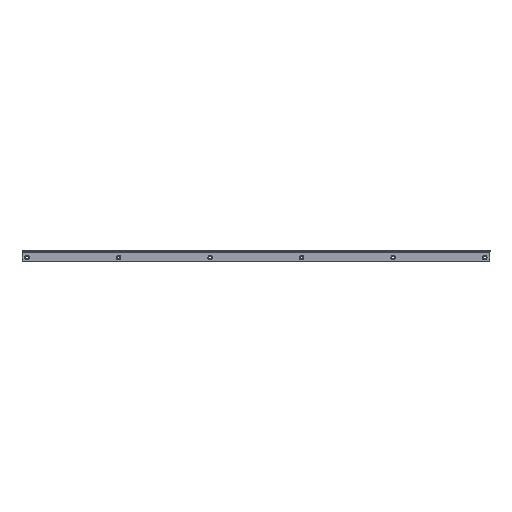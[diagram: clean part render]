
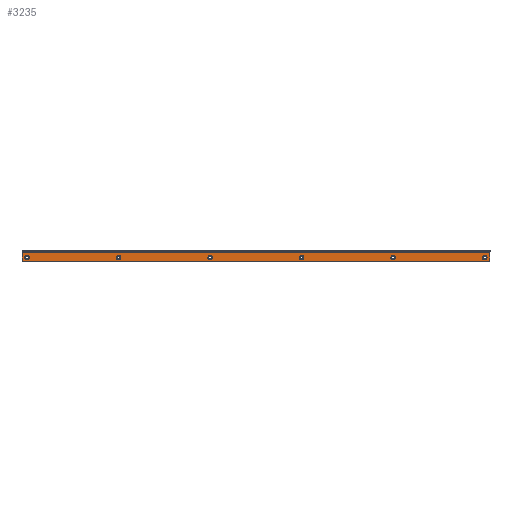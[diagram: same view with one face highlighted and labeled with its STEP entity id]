
A CAD part, left-side view. The second image highlights one B-rep face of the part: STEP entity #3235.
In plain terms, the highlighted planar face has unit normal (-1, 0, 0).
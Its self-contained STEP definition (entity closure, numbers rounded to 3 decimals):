
#2766=CARTESIAN_POINT('',(-214.,595.2,-11.));
#2767=VERTEX_POINT('',#2766);
#2768=CARTESIAN_POINT('',(-214.,594.2,-12.));
#2769=VERTEX_POINT('',#2768);
#2770=CARTESIAN_POINT('',(-214.,594.2,-11.));
#2771=DIRECTION('',(-1.0,0.,0.));
#2772=DIRECTION('',(0.,0.707,-0.707));
#2773=AXIS2_PLACEMENT_3D('',#2770,#2771,#2772);
#2774=CIRCLE('',#2773,1.0);
#2775=EDGE_CURVE('',#2767,#2769,#2774,.T.);
#2809=CARTESIAN_POINT('',(-214.,595.2,-1.));
#2810=VERTEX_POINT('',#2809);
#2811=CARTESIAN_POINT('',(-214.,595.2,-1.));
#2812=DIRECTION('',(0.0,0.0,-1.0));
#2813=VECTOR('',#2812,10.);
#2814=LINE('',#2811,#2813);
#2815=EDGE_CURVE('',#2810,#2767,#2814,.T.);
#2946=CARTESIAN_POINT('',(-214.,1.,-12.));
#2947=VERTEX_POINT('',#2946);
#2948=CARTESIAN_POINT('',(-214.,0.,-11.));
#2949=VERTEX_POINT('',#2948);
#2950=CARTESIAN_POINT('',(-214.,1.,-11.));
#2951=DIRECTION('',(-1.0,0.,0.));
#2952=DIRECTION('',(0.,-0.707,-0.707));
#2953=AXIS2_PLACEMENT_3D('',#2950,#2951,#2952);
#2954=CIRCLE('',#2953,1.0);
#2955=EDGE_CURVE('',#2947,#2949,#2954,.T.);
#2980=CARTESIAN_POINT('',(-214.0,0.,-1.));
#2981=VERTEX_POINT('',#2980);
#2988=CARTESIAN_POINT('',(-214.,0.,-11.));
#2989=DIRECTION('',(0.0,0.0,1.0));
#2990=VECTOR('',#2989,10.);
#2991=LINE('',#2988,#2990);
#2992=EDGE_CURVE('',#2949,#2981,#2991,.T.);
#3005=CARTESIAN_POINT('',(-214.,356.,-10.5));
#3006=VERTEX_POINT('',#3005);
#3007=CARTESIAN_POINT('',(-214.,356.,-7.6));
#3008=DIRECTION('',(-1.0,0.0,0.0));
#3009=DIRECTION('',(0.0,0.0,-1.0));
#3010=AXIS2_PLACEMENT_3D('',#3007,#3008,#3009);
#3011=CIRCLE('',#3010,2.9);
#3012=EDGE_CURVE('',#3006,#3006,#3011,.T.);
#3025=CARTESIAN_POINT('',(-214.,589.2,-10.5));
#3026=VERTEX_POINT('',#3025);
#3027=CARTESIAN_POINT('',(-214.,589.2,-7.6));
#3028=DIRECTION('',(-1.0,0.0,0.0));
#3029=DIRECTION('',(0.0,0.0,-1.0));
#3030=AXIS2_PLACEMENT_3D('',#3027,#3028,#3029);
#3031=CIRCLE('',#3030,2.9);
#3032=EDGE_CURVE('',#3026,#3026,#3031,.T.);
#3045=CARTESIAN_POINT('',(-214.0,6.2,-10.5));
#3046=VERTEX_POINT('',#3045);
#3047=CARTESIAN_POINT('',(-214.,6.2,-7.6));
#3048=DIRECTION('',(-1.0,0.0,0.0));
#3049=DIRECTION('',(0.0,0.0,-1.0));
#3050=AXIS2_PLACEMENT_3D('',#3047,#3048,#3049);
#3051=CIRCLE('',#3050,2.9);
#3052=EDGE_CURVE('',#3046,#3046,#3051,.T.);
#3065=CARTESIAN_POINT('',(-214.,472.6,-10.5));
#3066=VERTEX_POINT('',#3065);
#3067=CARTESIAN_POINT('',(-214.,472.6,-7.6));
#3068=DIRECTION('',(-1.0,0.0,0.0));
#3069=DIRECTION('',(0.0,0.0,-1.0));
#3070=AXIS2_PLACEMENT_3D('',#3067,#3068,#3069);
#3071=CIRCLE('',#3070,2.9);
#3072=EDGE_CURVE('',#3066,#3066,#3071,.T.);
#3085=CARTESIAN_POINT('',(-214.,122.8,-10.5));
#3086=VERTEX_POINT('',#3085);
#3087=CARTESIAN_POINT('',(-214.,122.8,-7.6));
#3088=DIRECTION('',(-1.0,0.0,0.0));
#3089=DIRECTION('',(0.0,0.0,-1.0));
#3090=AXIS2_PLACEMENT_3D('',#3087,#3088,#3089);
#3091=CIRCLE('',#3090,2.9);
#3092=EDGE_CURVE('',#3086,#3086,#3091,.T.);
#3105=CARTESIAN_POINT('',(-214.,239.4,-10.5));
#3106=VERTEX_POINT('',#3105);
#3107=CARTESIAN_POINT('',(-214.,239.4,-7.6));
#3108=DIRECTION('',(-1.0,0.0,0.0));
#3109=DIRECTION('',(0.0,0.0,-1.0));
#3110=AXIS2_PLACEMENT_3D('',#3107,#3108,#3109);
#3111=CIRCLE('',#3110,2.9);
#3112=EDGE_CURVE('',#3106,#3106,#3111,.T.);
#3122=CARTESIAN_POINT('',(-214.,595.2,-1.));
#3123=DIRECTION('',(0.0,-1.0,0.0));
#3124=VECTOR('',#3123,595.2);
#3125=LINE('',#3122,#3124);
#3126=EDGE_CURVE('',#2810,#2981,#3125,.T.);
#3195=CARTESIAN_POINT('',(-214.,594.2,-12.));
#3196=DIRECTION('',(0.0,-1.0,0.0));
#3197=VECTOR('',#3196,593.2);
#3198=LINE('',#3195,#3197);
#3199=EDGE_CURVE('',#2769,#2947,#3198,.T.);
#3204=CARTESIAN_POINT('',(-214.,297.6,-5.369));
#3205=DIRECTION('',(1.0,0.0,0.0));
#3206=DIRECTION('',(0.0,0.0,-1.0));
#3207=AXIS2_PLACEMENT_3D('',#3204,#3205,#3206);
#3208=PLANE('',#3207);
#3209=ORIENTED_EDGE('',*,*,#2775,.T.);
#3210=ORIENTED_EDGE('',*,*,#3199,.T.);
#3211=ORIENTED_EDGE('',*,*,#2955,.T.);
#3212=ORIENTED_EDGE('',*,*,#2992,.T.);
#3213=ORIENTED_EDGE('',*,*,#3126,.F.);
#3214=ORIENTED_EDGE('',*,*,#2815,.T.);
#3215=EDGE_LOOP('',(#3209,#3210,#3211,#3212,#3213,#3214));
#3216=FACE_OUTER_BOUND('',#3215,.T.);
#3217=ORIENTED_EDGE('',*,*,#3012,.F.);
#3218=EDGE_LOOP('',(#3217));
#3219=FACE_BOUND('',#3218,.T.);
#3220=ORIENTED_EDGE('',*,*,#3032,.F.);
#3221=EDGE_LOOP('',(#3220));
#3222=FACE_BOUND('',#3221,.T.);
#3223=ORIENTED_EDGE('',*,*,#3052,.F.);
#3224=EDGE_LOOP('',(#3223));
#3225=FACE_BOUND('',#3224,.T.);
#3226=ORIENTED_EDGE('',*,*,#3072,.F.);
#3227=EDGE_LOOP('',(#3226));
#3228=FACE_BOUND('',#3227,.T.);
#3229=ORIENTED_EDGE('',*,*,#3092,.F.);
#3230=EDGE_LOOP('',(#3229));
#3231=FACE_BOUND('',#3230,.T.);
#3232=ORIENTED_EDGE('',*,*,#3112,.F.);
#3233=EDGE_LOOP('',(#3232));
#3234=FACE_BOUND('',#3233,.T.);
#3235=ADVANCED_FACE('',(#3216,#3219,#3222,#3225,#3228,#3231,#3234),#3208,.F.);
